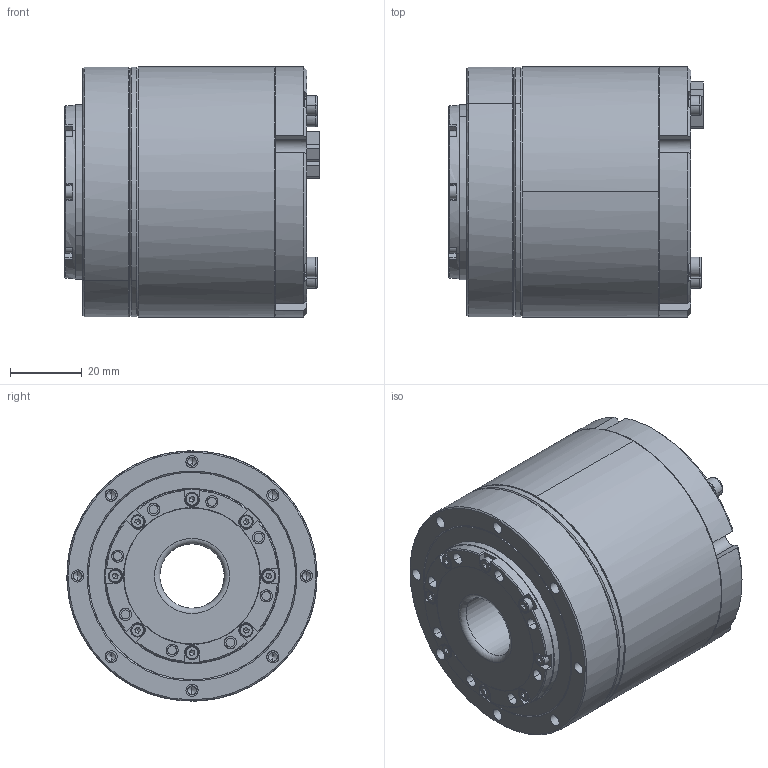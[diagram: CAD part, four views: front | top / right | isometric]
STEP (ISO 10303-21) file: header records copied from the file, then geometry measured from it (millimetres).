
FILE_DESCRIPTION (( 'STEP AP203' ), '1' );
FILE_NAME ('eRob70F｡ﾁ｡ﾁI-B-XX-18CX_V3_MC2A.9X.XX.STEP', '2025-04-02T07:43:11', ( 'Windows User' ), ( 'P R C' ), 'SwSTEP 2.0', 'SolidWorks 2021', '' );
FILE_SCHEMA (( 'CONFIG_CONTROL_DESIGN' ));
Length unit declared in the file: millimetre
Products named in the file (1): eRob70F××I-B-XX-18CX_V3_MC2A.9X.XX
Bounding box: 71.1 x 70 x 70 mm (x, y, z)
Volume: 216357.9 mm3; surface area: 42361.1 mm2
Topology: 1 solids, 23 shells, 2024 faces, 5359 edges, 3476 vertices
Faces by surface type: plane 1263, cylinder 482, bspline 136, cone 108, torus 35
Full cylindrical faces by diameter (mm): 2.5 x16, 18 x1
Entity records: 84227 total; most frequent: CARTESIAN_POINT 44494, ORIENTED_EDGE 10508, EDGE_CURVE 5254, B_SPLINE_CURVE_WITH_KNOTS 4895, DIRECTION 4239, VERTEX_POINT 3459, EDGE_LOOP 2309, FACE_OUTER_BOUND 2042
